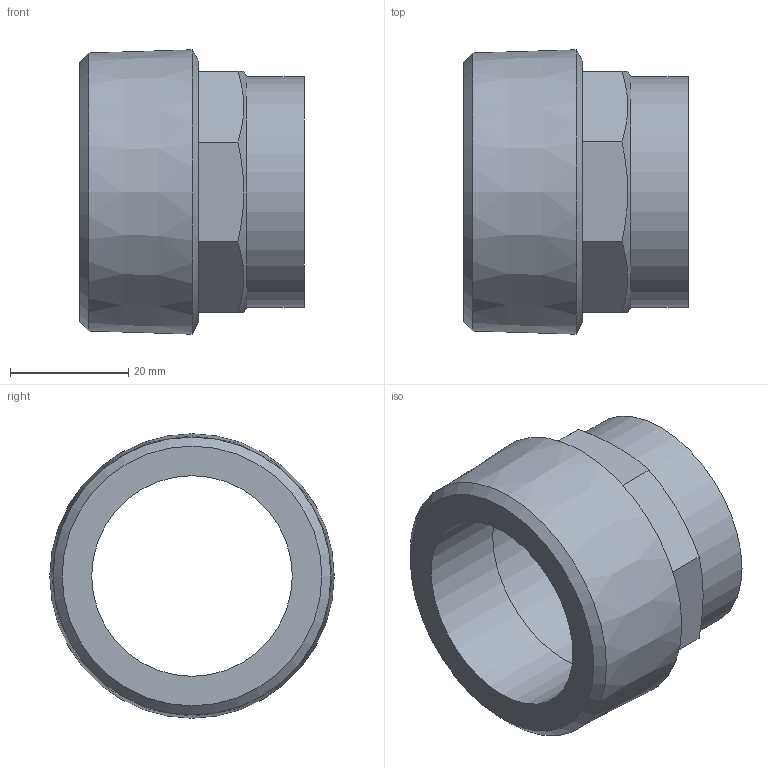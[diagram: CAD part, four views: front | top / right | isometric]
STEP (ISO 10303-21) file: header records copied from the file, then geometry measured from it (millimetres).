
FILE_DESCRIPTION((''),'2;1');
FILE_NAME('\\Lg50001\Groups\SANHA Legnica\Engineering\Public\RYSUNKI\SANHA POLSKA\4243G\step\14243_35-112(4).stp','2008-08-26T09:33:39',('pajchrowski'),(''),'Autodesk Inventor 2008','Autodesk Inventor 2008','');
FILE_SCHEMA(('AUTOMOTIVE_DESIGN { 1 0 10303 214 1 1 1 1 }'));
Length unit declared in the file: millimetre
Products named in the file (1): 14243_35-112(4)
Bounding box: 38 x 48.2 x 48.2 mm (x, y, z)
Volume: 22429.6 mm3; surface area: 10859.5 mm2
Topology: 1 solids, 1 shells, 19 faces, 43 edges, 28 vertices
Faces by surface type: plane 12, cone 4, cylinder 3
Full cylindrical faces by diameter (mm): 34 x1, 35.16 x1, 39.05 x1
Entity records: 500 total; most frequent: CARTESIAN_POINT 96, DIRECTION 76, ORIENTED_EDGE 68, EDGE_CURVE 34, AXIS2_PLACEMENT_3D 30, EDGE_LOOP 30, VERTEX_POINT 26, FACE_OUTER_BOUND 19
